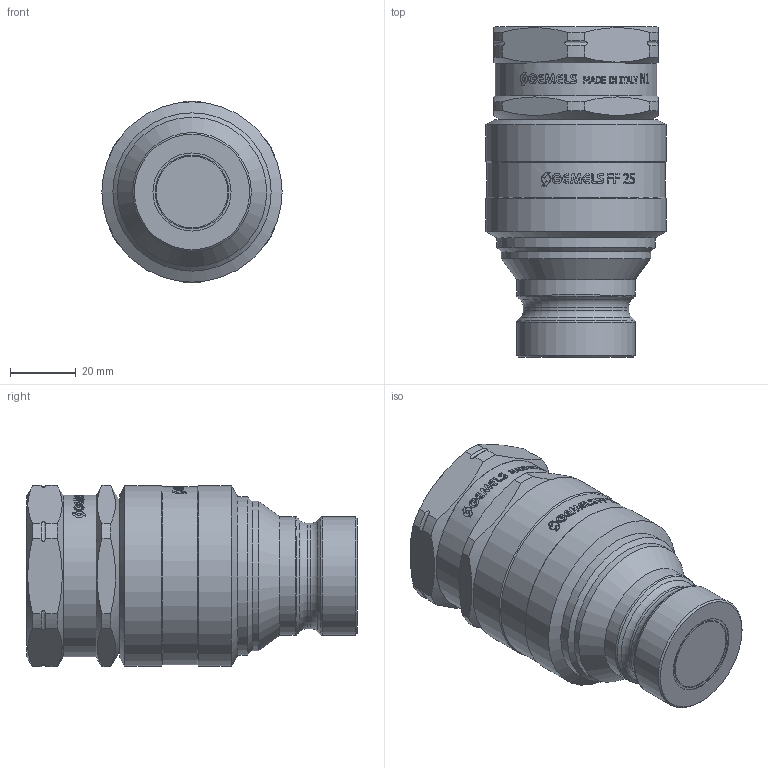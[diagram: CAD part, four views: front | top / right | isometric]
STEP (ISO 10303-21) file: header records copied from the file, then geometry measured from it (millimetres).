
FILE_DESCRIPTION(/* description */ (''),/* implementation_level */ '2;1');
FILE_NAME(/* name */ 'NC05N050002.stp',/* time_stamp */ '2024-08-26T16:49:53+02:00',/* author */ ('thomas.belotti'),/* organization */ (''),/* preprocessor_version */ 'ST-DEVELOPER v20',/* originating_system */ 'Autodesk Inventor 2024',/* authorisation */ '');
FILE_SCHEMA (('AUTOMOTIVE_DESIGN { 1 0 10303 214 3 1 1 }'));
Length unit declared in the file: millimetre
Products named in the file (1): Parte18
Bounding box: 54.7 x 100.2 x 54.99 mm (x, y, z)
Volume: 166719.5 mm3; surface area: 23609.5 mm2
Topology: 1 solids, 2 shells, 1051 faces, 2997 edges, 1992 vertices
Faces by surface type: bspline 682, plane 267, cylinder 75, cone 16, torus 11
Full cylindrical faces by diameter (mm): 23.7 x1, 29 x1, 31.9 x1, 36 x2, 45.3 x1, 46 x1, 46.3 x1, 48 x1, 49 x1, 54 x1, 54.7 x2
Entity records: 45349 total; most frequent: CARTESIAN_POINT 21368, ORIENTED_EDGE 5994, EDGE_CURVE 2997, DIRECTION 2670, VERTEX_POINT 1992, B_SPLINE_CURVE_WITH_KNOTS 1422, LINE 1172, VECTOR 1172
